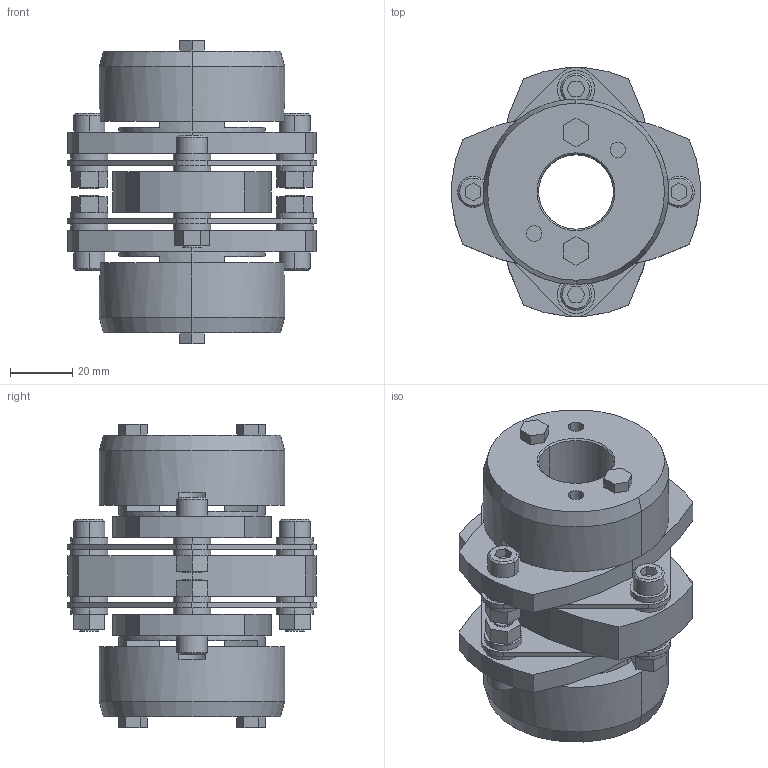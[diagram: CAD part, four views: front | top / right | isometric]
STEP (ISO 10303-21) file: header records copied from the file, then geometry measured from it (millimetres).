
FILE_DESCRIPTION((''),'2;1');
FILE_NAME('LCD-80T7-24×24.stp','2011-09-15T14:28:50',(''),(''),'AutoCAD STEP 2000i','AutoCAD 2000i',', , ');
FILE_SCHEMA(('CONFIG_CONTROL_DESIGN'));
Length unit declared in the file: millimetre
Products named in the file (10): LCD-80T7-24×24; 忣兜1; LC80T7-T024-1; LC80T7-T024; LC80T7-T022; LC80T7-T019-1; LC80T7-T019; LC80T7-T017-1; LC80T7-T017; LCD80-ITA
Assembly tree (9 placements, depth 2):
  LCD-80T7-24×24
    忣兜1
    LC80T7-T024-1
    LC80T7-T024
    LC80T7-T022
    LC80T7-T019-1
    LC80T7-T019
    LC80T7-T017-1
    LC80T7-T017
    LCD80-ITA
Bounding box: 80 x 79.95 x 97.5 mm (x, y, z)
Volume: 200726.9 mm3; surface area: 59805.1 mm2
Topology: 1 solids, 1 shells, 314 faces, 768 edges, 504 vertices
Faces by surface type: plane 166, cylinder 124, cone 24
Entity records: 9569 total; most frequent: DIRECTION 1712, CARTESIAN_POINT 1596, ORIENTED_EDGE 1536, EDGE_CURVE 768, AXIS2_PLACEMENT_3D 620, VERTEX_POINT 504, VECTOR 472, LINE 472
